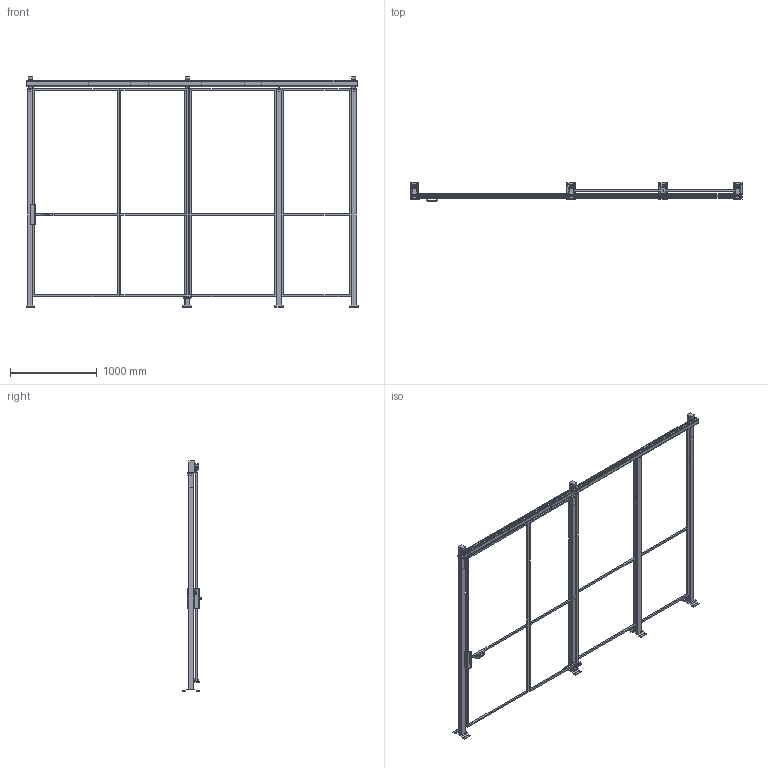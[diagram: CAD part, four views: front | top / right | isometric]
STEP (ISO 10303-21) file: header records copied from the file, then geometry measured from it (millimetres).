
FILE_DESCRIPTION(/* description */ (''),/* implementation_level */ '2;1');
FILE_NAME(/* name */ 'C:\SafeGuarding\ELABORATI\VZOR§POSUVNE_2025-02-05-13-44-33.stp',/* time_stamp */ '2025-02-05T13:44:35+01:00',/* author */ ('admin'),/* organization */ (''),/* preprocessor_version */ 'ST-DEVELOPER v18.1',/* originating_system */ 'AutoCAD Mechanical',/* authorisation */ '');
FILE_SCHEMA (('AUTOMOTIVE_DESIGN { 1 0 10303 214 3 1 1 }'));
Length unit declared in the file: millimetre
Products named in the file (5): Product; VFPA.REPE2008002400; VFPA.REPE2010002400; DATI_PORTA; P_VFMA.ME60SDU.2520
Assembly tree (9 placements, depth 2):
  Product
    P_VFMA.ME60SDU.2520  x4
    VFPA.REPE2008002400  x2
    VFPA.REPE2010002400  x2
    DATI_PORTA
Bounding box: 3830 x 219.95 x 2654 mm (x, y, z)
Volume: 57865299 mm3; surface area: 7633652.5 mm2
Topology: 34 solids, 45 shells, 603 faces, 2086 edges, 2021 vertices
Faces by surface type: plane 555, cylinder 46, sphere 2
Full cylindrical faces by diameter (mm): 11 x16, 12 x2, 15 x4, 40 x4
Entity records: 14849 total; most frequent: CARTESIAN_POINT 3141, DIRECTION 2238, ORIENTED_EDGE 2166, LINE 1134, VECTOR 1134, EDGE_CURVE 1132, VERTEX_POINT 796, AXIS2_PLACEMENT_3D 552
